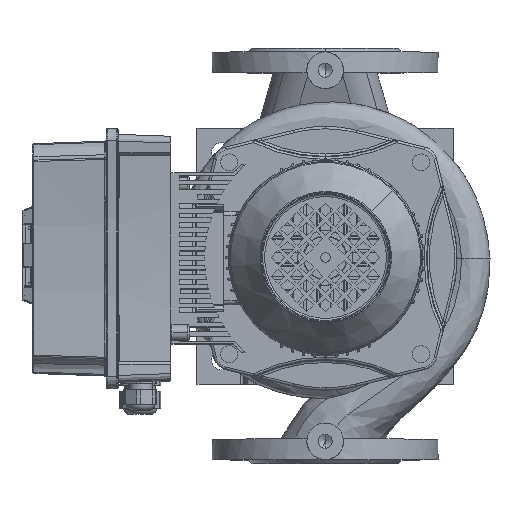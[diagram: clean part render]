
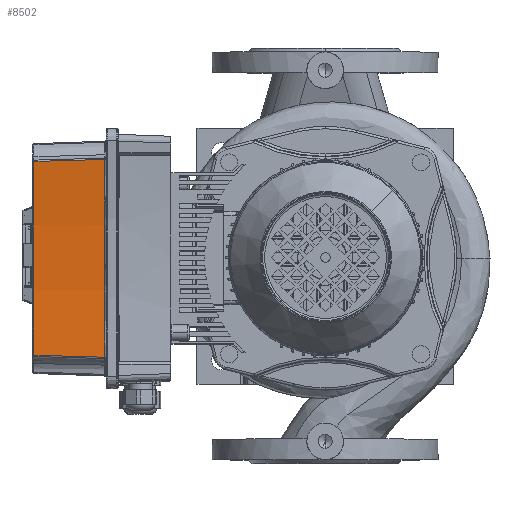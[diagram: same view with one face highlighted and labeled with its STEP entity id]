
A CAD part, top view. The second image highlights one B-rep face of the part: STEP entity #8502.
In plain terms, the highlighted conical face has half-angle 2 degrees and reference radius 845 mm.
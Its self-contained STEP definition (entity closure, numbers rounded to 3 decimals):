
#8502=ADVANCED_FACE('',(#17170),#17171,.F.);
#17170=FACE_OUTER_BOUND('',#38897,.T.);
#17171=CONICAL_SURFACE('',#38898,845.0,0.035);
#38897=EDGE_LOOP('',(#61842,#61843,#61844,#61845));
#38898=AXIS2_PLACEMENT_3D('',#61846,#61847,#61848);
#61842=ORIENTED_EDGE('',*,*,#102752,.F.);
#61843=ORIENTED_EDGE('',*,*,#102807,.F.);
#61844=ORIENTED_EDGE('',*,*,#102768,.F.);
#61845=ORIENTED_EDGE('',*,*,#102796,.F.);
#61846=CARTESIAN_POINT('',(-110.0,1132.065,60.0));
#61847=DIRECTION('',(0.,-0.0,-1.0));
#61848=DIRECTION('',(1.0,0.0,0.));
#102752=EDGE_CURVE('',#133495,#133501,#133502,.T.);
#102768=EDGE_CURVE('',#133522,#133514,#133524,.T.);
#102796=EDGE_CURVE('',#133501,#133522,#133554,.T.);
#102807=EDGE_CURVE('',#133514,#133495,#133566,.T.);
#133495=VERTEX_POINT('',#161115);
#133501=VERTEX_POINT('',#161157);
#133502=B_SPLINE_CURVE_WITH_KNOTS('',3,(#161158,#161159,#161160,#161161,#161162,#161163,#161164,#161165,#161166,#161167,#161168,#161169,#161170,#161171,#161172,#161173,#161174,#161175,#161176,#161177,#161178,#161179,#161180,#161181,#161182),.UNSPECIFIED.,.F.,.F.,(4,3,3,3,3,3,3,3,4),(-60.14,-51.629,-41.43,-35.057,-31.073,-27.089,-20.715,-10.517,-2.006),.UNSPECIFIED.);
#133514=VERTEX_POINT('',#161271);
#133522=VERTEX_POINT('',#161332);
#133524=B_SPLINE_CURVE_WITH_KNOTS('',3,(#161347,#161348,#161349,#161350,#161351,#161352,#161353,#161354,#161355,#161356,#161357,#161358,#161359,#161360,#161361,#161362,#161363,#161364,#161365,#161366,#161367,#161368,#161369,#161370,#161371),.UNSPECIFIED.,.F.,.F.,(4,3,3,3,3,3,3,3,4),(2.006,10.517,20.716,27.09,31.073,35.057,41.431,51.63,60.14),.UNSPECIFIED.);
#133554=CIRCLE('',#161562,847.062);
#133566=CIRCLE('',#161590,845.034);
#161115=CARTESIAN_POINT('',(-190.987,290.921,59.035));
#161157=CARTESIAN_POINT('',(-189.365,288.73,0.965));
#161158=CARTESIAN_POINT('',(-190.987,290.921,59.035));
#161159=CARTESIAN_POINT('',(-190.902,290.814,56.201));
#161160=CARTESIAN_POINT('',(-190.819,290.706,53.368));
#161161=CARTESIAN_POINT('',(-190.736,290.599,50.534));
#161162=CARTESIAN_POINT('',(-190.637,290.47,47.138));
#161163=CARTESIAN_POINT('',(-190.539,290.342,43.743));
#161164=CARTESIAN_POINT('',(-190.442,290.214,40.347));
#161165=CARTESIAN_POINT('',(-190.381,290.133,38.225));
#161166=CARTESIAN_POINT('',(-190.321,290.053,36.103));
#161167=CARTESIAN_POINT('',(-190.261,289.973,33.98));
#161168=CARTESIAN_POINT('',(-190.224,289.923,32.654));
#161169=CARTESIAN_POINT('',(-190.187,289.873,31.327));
#161170=CARTESIAN_POINT('',(-190.15,289.823,30.001));
#161171=CARTESIAN_POINT('',(-190.113,289.773,28.675));
#161172=CARTESIAN_POINT('',(-190.076,289.723,27.348));
#161173=CARTESIAN_POINT('',(-190.04,289.673,26.022));
#161174=CARTESIAN_POINT('',(-189.981,289.593,23.899));
#161175=CARTESIAN_POINT('',(-189.923,289.513,21.777));
#161176=CARTESIAN_POINT('',(-189.865,289.433,19.655));
#161177=CARTESIAN_POINT('',(-189.772,289.305,16.259));
#161178=CARTESIAN_POINT('',(-189.681,289.177,12.863));
#161179=CARTESIAN_POINT('',(-189.59,289.049,9.467));
#161180=CARTESIAN_POINT('',(-189.515,288.943,6.633));
#161181=CARTESIAN_POINT('',(-189.44,288.836,3.799));
#161182=CARTESIAN_POINT('',(-189.365,288.73,0.965));
#161271=CARTESIAN_POINT('',(-29.013,290.921,59.035));
#161332=CARTESIAN_POINT('',(-30.635,288.73,0.965));
#161347=CARTESIAN_POINT('',(-30.635,288.73,0.965));
#161348=CARTESIAN_POINT('',(-30.56,288.836,3.799));
#161349=CARTESIAN_POINT('',(-30.485,288.943,6.633));
#161350=CARTESIAN_POINT('',(-30.41,289.049,9.467));
#161351=CARTESIAN_POINT('',(-30.319,289.177,12.863));
#161352=CARTESIAN_POINT('',(-30.228,289.305,16.259));
#161353=CARTESIAN_POINT('',(-30.135,289.433,19.654));
#161354=CARTESIAN_POINT('',(-30.077,289.513,21.777));
#161355=CARTESIAN_POINT('',(-30.019,289.593,23.899));
#161356=CARTESIAN_POINT('',(-29.96,289.673,26.022));
#161357=CARTESIAN_POINT('',(-29.924,289.723,27.348));
#161358=CARTESIAN_POINT('',(-29.887,289.773,28.674));
#161359=CARTESIAN_POINT('',(-29.85,289.823,30.001));
#161360=CARTESIAN_POINT('',(-29.813,289.873,31.327));
#161361=CARTESIAN_POINT('',(-29.776,289.923,32.654));
#161362=CARTESIAN_POINT('',(-29.739,289.973,33.98));
#161363=CARTESIAN_POINT('',(-29.679,290.053,36.103));
#161364=CARTESIAN_POINT('',(-29.619,290.133,38.225));
#161365=CARTESIAN_POINT('',(-29.558,290.214,40.347));
#161366=CARTESIAN_POINT('',(-29.461,290.342,43.743));
#161367=CARTESIAN_POINT('',(-29.363,290.47,47.139));
#161368=CARTESIAN_POINT('',(-29.264,290.599,50.534));
#161369=CARTESIAN_POINT('',(-29.181,290.706,53.368));
#161370=CARTESIAN_POINT('',(-29.098,290.814,56.201));
#161371=CARTESIAN_POINT('',(-29.013,290.921,59.035));
#161562=AXIS2_PLACEMENT_3D('',#191926,#191927,#191928);
#161590=AXIS2_PLACEMENT_3D('',#191938,#191939,#191940);
#191926=CARTESIAN_POINT('',(-110.0,1132.065,0.965));
#191927=DIRECTION('',(0.,0.,1.0));
#191928=DIRECTION('',(0.0,-1.0,0.));
#191938=CARTESIAN_POINT('',(-110.0,1132.065,59.035));
#191939=DIRECTION('',(-0.0,-0.0,-1.0));
#191940=DIRECTION('',(0.0,-1.0,0.0));
